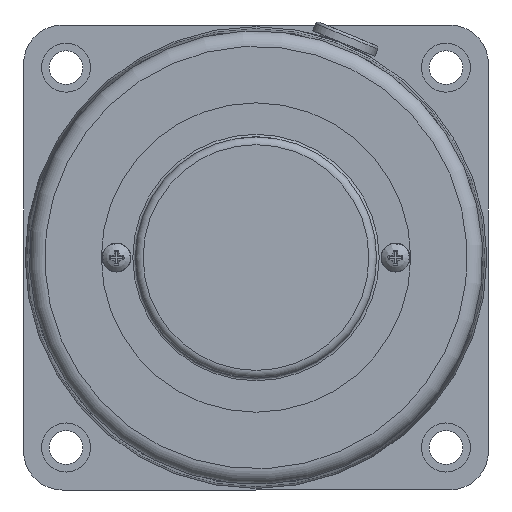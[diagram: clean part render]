
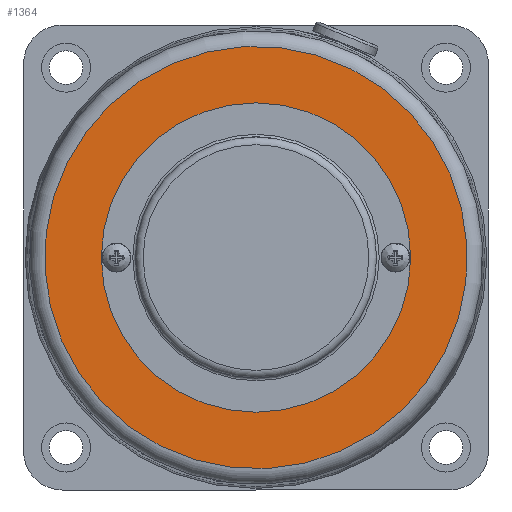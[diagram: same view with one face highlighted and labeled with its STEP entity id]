
A CAD part, left-side view. The second image highlights one B-rep face of the part: STEP entity #1364.
In plain terms, the highlighted planar face has unit normal (-1, 0, 0).
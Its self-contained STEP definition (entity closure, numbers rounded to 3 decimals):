
#1337=CARTESIAN_POINT('',(-40.5,0.,0.));
#1338=DIRECTION('',(-1.0,0.0,0.0));
#1339=DIRECTION('',(0.0,0.395,0.918));
#1340=AXIS2_PLACEMENT_3D('',#1337,#1338,#1339);
#1341=PLANE('',#1340);
#1342=CARTESIAN_POINT('',(-40.5,-16.174,-37.566));
#1343=VERTEX_POINT('',#1342);
#1344=CARTESIAN_POINT('',(-40.5,0.,0.));
#1345=DIRECTION('',(1.0,0.,0.));
#1346=DIRECTION('',(0.,0.395,0.918));
#1347=AXIS2_PLACEMENT_3D('',#1344,#1345,#1346);
#1348=CIRCLE('',#1347,40.9);
#1349=EDGE_CURVE('',#1343,#1343,#1348,.T.);
#1350=ORIENTED_EDGE('',*,*,#1349,.F.);
#1351=EDGE_LOOP('',(#1350));
#1352=FACE_OUTER_BOUND('',#1351,.T.);
#1353=CARTESIAN_POINT('',(-40.5,29.95,0.));
#1354=VERTEX_POINT('',#1353);
#1355=CARTESIAN_POINT('',(-40.5,0.,0.));
#1356=DIRECTION('',(-1.0,0.0,0.0));
#1357=DIRECTION('',(0.0,-1.0,0.0));
#1358=AXIS2_PLACEMENT_3D('',#1355,#1356,#1357);
#1359=CIRCLE('',#1358,29.95);
#1360=EDGE_CURVE('',#1354,#1354,#1359,.T.);
#1361=ORIENTED_EDGE('',*,*,#1360,.F.);
#1362=EDGE_LOOP('',(#1361));
#1363=FACE_BOUND('',#1362,.T.);
#1364=ADVANCED_FACE('',(#1352,#1363),#1341,.T.);
